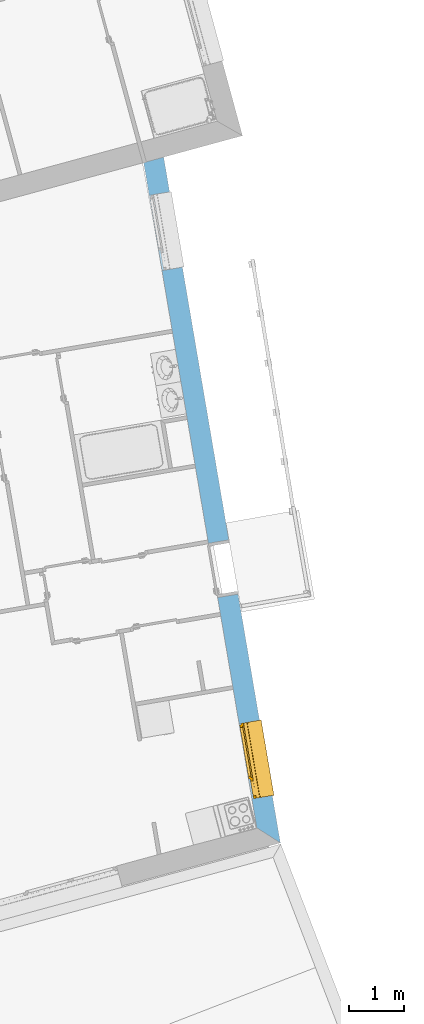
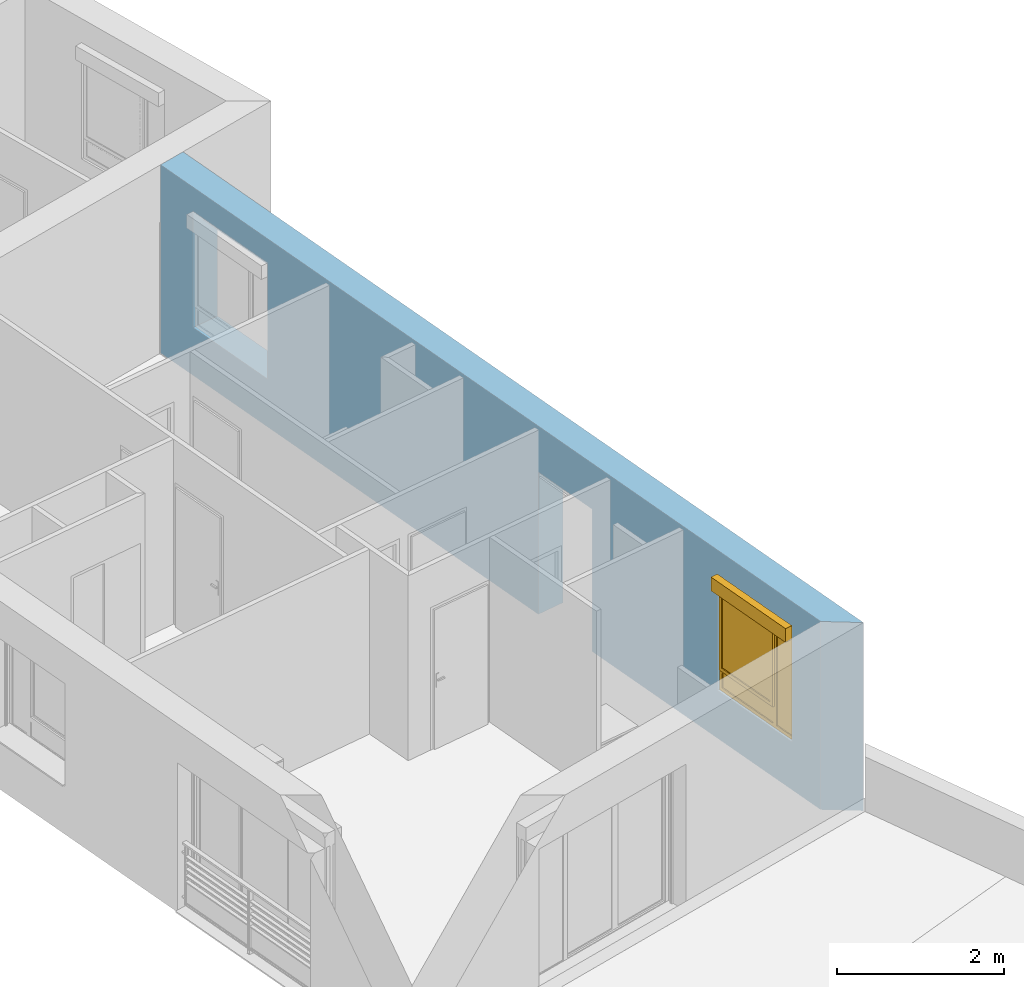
# One storey, part 77 of 121: 1 window, 3 openings, plus 1 element that does not belong to this part.
"""IFC2X3 building model written with IfcOpenShell, lengths in metres."""

from ifc_helpers import new_model, entity, si_unit, converted_unit, derived_unit, money_unit, direction, frame, origin_with_axes, origin_2d_with_axis, place, context, subcontext, project, spatial, polyline, rectangle, outline, extrude, open_shell, faceted_brep, surface_model, source, transform, mapped, material, layer, layer_set, layer_usage, type_object, element, fill, save


model = new_model("IFC2X3")

# Units and contexts
model_context = context("Model", 3, precision=1e-05, world=origin_with_axes(), true_north=direction((0.0, 1.0)))
body_context = subcontext(model_context, "Body", "Model", "MODEL_VIEW")
ifc_project = project(units=[si_unit("LENGTHUNIT", "METRE"), si_unit("AREAUNIT", "SQUARE_METRE"), si_unit("VOLUMEUNIT", "CUBIC_METRE"), converted_unit("PLANEANGLEUNIT", "DEGREE", entity("IfcPlaneAngleMeasure", 0.0174532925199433), si_unit("PLANEANGLEUNIT", "RADIAN"), dimensions=[0, 0, 0, 0, 0, 0, 0]), money_unit("CHF"), converted_unit("TIMEUNIT", "Year", entity("IfcTimeMeasure", 31557600.0), si_unit("TIMEUNIT", "SECOND"), dimensions=[0, 0, 1, 0, 0, 0, 0]), si_unit("MASSUNIT", "GRAM", prefix="KILO"), si_unit("THERMODYNAMICTEMPERATUREUNIT", "DEGREE_CELSIUS"), si_unit("LUMINOUSINTENSITYUNIT", "LUMEN"), si_unit("ENERGYUNIT", "JOULE", prefix="MEGA"), derived_unit("THERMALCONDUCTANCEUNIT", [(si_unit("POWERUNIT", "WATT"), 1), (si_unit("LENGTHUNIT", "METRE"), -1), (si_unit("THERMODYNAMICTEMPERATUREUNIT", "KELVIN"), -1)]), derived_unit("SPECIFICHEATCAPACITYUNIT", [(si_unit("ENERGYUNIT", "JOULE"), 1), (si_unit("MASSUNIT", "GRAM", prefix="KILO"), -1), (si_unit("THERMODYNAMICTEMPERATUREUNIT", "KELVIN"), -1)]), derived_unit("MASSDENSITYUNIT", [(si_unit("MASSUNIT", "GRAM", prefix="KILO"), 1), (si_unit("VOLUMEUNIT", "CUBIC_METRE"), -1)])], contexts=[model_context])

# Site, building, storey
site_placement = place(None, origin_with_axes())
site = spatial("IfcSite", under=ifc_project, at=site_placement, Name="Site", CompositionType="ELEMENT")
building_placement = place(site_placement, origin_with_axes())
building = spatial("IfcBuilding", under=site, at=building_placement, Name="Bâtiment", CompositionType="ELEMENT")
storey_placement = place(building_placement, frame((0.0, 0.0, 2.75), z_axis=(0.0, 0.0, 1.0), x_axis=(1.0, 0.0, 0.0)))
storey = spatial("IfcBuildingStorey", under=building, at=storey_placement, Name="Etage 1", CompositionType="ELEMENT", Elevation=2.75)

# Wall, openings, window
ifc_material_1 = material(Name="Parpaing 312445824")
ifc_layer_1 = layer(ifc_material_1, 0.22, ventilated="UNKNOWN")
ifc_material_2 = material(Name="Isolant styromousse 301821074")
ifc_layer_2 = layer(ifc_material_2, 0.16, ventilated="UNKNOWN")
ifc_layer_set = layer_set([ifc_layer_1, ifc_layer_2], Name="isol int 22+16 0836643197")
ifc_layer_usage = layer_usage(ifc_layer_set, "AXIS2", "NEGATIVE", 0.0)
wall_type = type_object("IfcWallType", Name="isol int 22+16 0836643197 380", PredefinedType="NOTDEFINED")
wall_placement = place(storey_placement, frame((9587.267838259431, -1021.018009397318, 57.7), z_axis=(0.0, 0.0, 1.0), x_axis=(0.1677527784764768, -0.9858290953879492, 0.0)))
wall = element("IfcWallStandardCase", 1, at=wall_placement, inside=storey, type_object=wall_type, material=ifc_layer_usage, Name="Mur-113", context=body_context, shape_type="SweptSolid", body=[
    extrude(outline(polyline([(0.03709306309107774, -0.3799999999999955), (12.41463836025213, -0.3799999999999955), (12.75935139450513, 0.0), (9.105178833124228e-10, 0.0), (0.03709306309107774, -0.3799999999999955)])), origin_with_axes(), (0.0, 0.0, 1.0), 2.75),
])
opening_1_placement = place(wall_placement, frame((1.346555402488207, 0.0, 0.7000000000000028), z_axis=(0.0, 0.0, 1.0), x_axis=(1.0, 0.0, 0.0)))
element("IfcOpeningElement", 2, at=opening_1_placement, cuts=wall, Name="Fen-045", context=body_context, shape_type="Brep", body=[
    faceted_brep([(-0.700000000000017, -0.2200000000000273, 1.5), (0.700000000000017, -0.2199999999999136, 1.5), (0.700000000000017, 2.111085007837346, 1.5), (-0.700000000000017, 2.111085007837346, 1.5), (-0.700000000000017, -0.2200000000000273, 1.700000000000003), (0.700000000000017, -0.2199999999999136, 1.700000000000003), (0.700000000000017, -0.2999999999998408, 1.5), (0.700000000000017, -0.2999999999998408, 0.0), (0.700000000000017, 2.111085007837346, 0.0), (-0.700000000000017, 2.111085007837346, 0.0), (-0.6999999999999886, -0.2999999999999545, 1.5), (-0.6999999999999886, -0.2999999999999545, 0.0), (-0.6999999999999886, -0.4799999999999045, 1.5), (-0.6999999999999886, -0.4799999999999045, 1.700000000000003), (0.700000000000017, -0.4799999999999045, 1.700000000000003), (0.700000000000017, -0.4799999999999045, 1.5), (0.700000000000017, -2.491085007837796, 1.5), (0.700000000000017, -2.491085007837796, 0.0), (-0.6999999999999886, -2.491085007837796, 0.0), (-0.6999999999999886, -2.491085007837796, 1.5)], [[[0, 1, 2, 3]], [[1, 0, 4, 5]], [[1, 6, 7, 8, 2]], [[2, 8, 9, 3]], [[10, 0, 3, 9, 11]], [[0, 10, 12, 13, 4]], [[14, 5, 4, 13]], [[6, 1, 5, 14, 15]], [[6, 15, 16, 17, 7]], [[7, 11, 9, 8]], [[12, 10, 11, 18, 19]], [[12, 15, 14, 13]], [[15, 12, 19, 16]], [[19, 18, 17, 16]], [[11, 7, 17, 18]]]),
])
opening_2_placement = place(wall_placement, frame((7.626217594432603, 0.0, 0.0), z_axis=(0.0, 0.0, 1.0), x_axis=(1.0, 0.0, 0.0)))
element("IfcOpeningElement", 3, at=opening_2_placement, cuts=wall, Name="Por-294", context=body_context, shape_type="SweptSolid", body=[
    extrude(rectangle(XDim=1.01000001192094, YDim=2.079999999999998, at=origin_2d_with_axis()), frame((-5.960401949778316e-09, 0.3799999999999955, 1.039999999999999), z_axis=(0.0, -1.0, 0.0), x_axis=(-1.0, 0.0, 0.0)), (0.0, 0.0, 1.0), 0.76),
])
opening_3_placement = place(wall_placement, frame((11.17804092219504, 0.0, 0.7000000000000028), z_axis=(0.0, 0.0, 1.0), x_axis=(1.0, 0.0, 0.0)))
opening_3 = element("IfcOpeningElement", 4, at=opening_3_placement, cuts=wall, Name="Fen-045", context=body_context, shape_type="Brep", body=[
    faceted_brep([(-0.6999999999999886, -0.2200000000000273, 1.5), (0.6999999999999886, -0.2200000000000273, 1.5), (0.6999999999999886, 2.111085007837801, 1.5), (-0.6999999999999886, 2.111085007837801, 1.5), (-0.6999999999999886, -0.2200000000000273, 1.700000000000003), (0.6999999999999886, -0.2200000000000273, 1.700000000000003), (0.6999999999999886, -0.2999999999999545, 1.5), (0.6999999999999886, -0.2999999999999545, 0.0), (0.6999999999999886, 2.111085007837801, 0.0), (-0.6999999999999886, 2.111085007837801, 0.0), (-0.6999999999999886, -0.2999999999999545, 1.5), (-0.6999999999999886, -0.2999999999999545, 0.0), (-0.6999999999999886, -0.4799999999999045, 1.5), (-0.6999999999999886, -0.4799999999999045, 1.700000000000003), (0.6999999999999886, -0.4800000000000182, 1.700000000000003), (0.6999999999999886, -0.4800000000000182, 1.5), (0.700000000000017, -2.491085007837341, 1.5), (0.700000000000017, -2.491085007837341, 0.0), (-0.700000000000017, -2.491085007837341, 0.0), (-0.700000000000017, -2.491085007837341, 1.5)], [[[0, 1, 2, 3]], [[1, 0, 4, 5]], [[1, 6, 7, 8, 2]], [[2, 8, 9, 3]], [[10, 0, 3, 9, 11]], [[0, 10, 12, 13, 4]], [[14, 5, 4, 13]], [[6, 1, 5, 14, 15]], [[6, 15, 16, 17, 7]], [[7, 11, 9, 8]], [[12, 10, 11, 18, 19]], [[12, 15, 14, 13]], [[15, 12, 19, 16]], [[19, 18, 17, 16]], [[11, 7, 17, 18]]]),
])
window_style = type_object("IfcWindowStyle", Name="Fenêtre variable 27", ConstructionType="NOTDEFINED", OperationType="TRIPLE_PANEL_LEFT", ParameterTakesPrecedence=False, Sizeable=False)
shared_shape = source(origin_with_axes(), body_context, "Body", "SurfaceModel", [
    surface_model("IfcShellBasedSurfaceModel", [(0.7, -0.05100000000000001, 0.05), (-0.7, -0.05100000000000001, 0.05000000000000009), (-0.7, -0.05100000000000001, 0.04000000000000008), (0.7, -0.05100000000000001, 0.04), (-0.7, -0.3799999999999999, 0.02900000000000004), (0.7, -0.3799999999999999, 0.02899999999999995), (-0.7, -0.3799999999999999, 0.00900000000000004), (0.7, -0.3799999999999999, 0.008999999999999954), (-0.7, -0.3699999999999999, 0.01900000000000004), (0.7, -0.3699999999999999, 0.01899999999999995)], [open_shell([[[0, 1, 2, 3]], [[3, 2, 4, 5]], [[5, 4, 6, 7]], [[7, 6, 8, 9]]])]),
    faceted_brep([(0.7, -0.13, 1.7), (0.7, 0.13, 1.7), (0.697, 0.13, 1.7), (0.697, -0.13, 1.7), (0.7, -0.13, 1.5), (0.7, 0.13, 1.5), (0.697, 0.13, 1.5), (0.697, -0.13, 1.5)], [[[0, 1, 2, 3]], [[0, 4, 5, 1]], [[1, 5, 6, 2]], [[3, 2, 6, 7]], [[4, 0, 3, 7]], [[5, 4, 7, 6]]]),
    faceted_brep([(-0.6970000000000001, -0.1299999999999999, 1.7), (-0.6970000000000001, 0.1300000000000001, 1.7), (-0.7000000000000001, 0.1300000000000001, 1.7), (-0.7000000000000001, -0.1299999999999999, 1.7), (-0.6970000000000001, -0.1299999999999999, 1.5), (-0.6970000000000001, 0.1300000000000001, 1.5), (-0.7000000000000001, 0.1300000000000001, 1.5), (-0.7000000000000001, -0.1299999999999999, 1.5)], [[[0, 1, 2, 3]], [[0, 4, 5, 1]], [[1, 5, 6, 2]], [[3, 2, 6, 7]], [[4, 0, 3, 7]], [[5, 4, 7, 6]]]),
    faceted_brep([(0.697, -0.13, 1.5), (0.697, -0.13, 1.7), (-0.697, -0.1299999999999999, 1.7), (-0.697, -0.1299999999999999, 1.5), (0.697, -0.127, 1.5), (0.697, -0.127, 1.697), (0.697, 0.127, 1.697), (0.697, 0.127, 1.503), (0.697, -0.108, 1.503), (0.697, -0.108, 1.5), (0.697, 0.13, 1.5), (0.697, 0.13, 1.7), (-0.697, 0.1300000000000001, 1.7), (-0.697, 0.1300000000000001, 1.5), (-0.697, -0.1079999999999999, 1.5), (-0.697, -0.1079999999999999, 1.503), (-0.697, 0.1270000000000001, 1.503), (-0.697, 0.1270000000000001, 1.697), (-0.697, -0.1269999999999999, 1.697), (-0.697, -0.1269999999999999, 1.5)], [[[0, 1, 2, 3]], [[0, 4, 5, 6, 7, 8, 9, 10, 11, 1]], [[1, 11, 12, 2]], [[3, 2, 12, 13, 14, 15, 16, 17, 18, 19]], [[4, 0, 3, 19]], [[5, 4, 19, 18]], [[6, 5, 18, 17]], [[7, 6, 17, 16]], [[8, 7, 16, 15]], [[9, 8, 15, 14]], [[10, 9, 14, 13]], [[11, 10, 13, 12]]]),
    faceted_brep([(0.694, -0.08075423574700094, 1.585760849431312), (0.694, -0.07705479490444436, 1.571954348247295), (0.694, -0.07101408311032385, 1.559), (0.694, -0.06281564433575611, 1.547291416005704), (0.694, -0.05270858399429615, 1.537184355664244), (0.694, -0.04099999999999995, 1.528985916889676), (0.694, -0.02804565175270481, 1.522945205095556), (0.694, -0.01423915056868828, 1.519245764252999), (0.694, 0.0, 1.518), (0.694, 0.01423915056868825, 1.519245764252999), (0.694, 0.02804565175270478, 1.522945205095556), (0.694, 0.04099999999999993, 1.528985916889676), (0.694, 0.05270858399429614, 1.537184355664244), (0.694, 0.06281564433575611, 1.547291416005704), (0.694, 0.07101408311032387, 1.559), (0.694, 0.07705479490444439, 1.571954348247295), (0.694, 0.08075423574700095, 1.585760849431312), (0.694, 0.0819999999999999, 1.6), (0.694, 0.08075423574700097, 1.614239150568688), (0.694, 0.0770547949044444, 1.628045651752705), (0.694, 0.07101408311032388, 1.641), (0.694, 0.06281564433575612, 1.652708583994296), (0.694, 0.05270858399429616, 1.662815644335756), (0.694, 0.04099999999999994, 1.671014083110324), (0.694, 0.02804565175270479, 1.677054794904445), (0.694, 0.01423915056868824, 1.680754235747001), (0.694, 0.0, 1.682), (0.694, -0.01423915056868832, 1.680754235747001), (0.694, -0.02804565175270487, 1.677054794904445), (0.694, -0.04100000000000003, 1.671014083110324), (0.694, -0.05270858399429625, 1.662815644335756), (0.694, -0.06281564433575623, 1.652708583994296), (0.694, -0.07101408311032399, 1.641), (0.694, -0.07705479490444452, 1.628045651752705), (0.694, -0.0807542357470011, 1.614239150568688), (0.694, -0.08200000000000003, 1.6), (-0.694, -0.08075423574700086, 1.585760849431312), (-0.694, -0.07705479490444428, 1.571954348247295), (-0.694, -0.07101408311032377, 1.559), (-0.694, -0.06281564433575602, 1.547291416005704), (-0.694, -0.05270858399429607, 1.537184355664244), (-0.694, -0.04099999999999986, 1.528985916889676), (-0.694, -0.02804565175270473, 1.522945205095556), (-0.694, -0.0142391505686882, 1.519245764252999), (-0.694, 0.0, 1.518), (-0.694, 0.01423915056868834, 1.519245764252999), (-0.694, 0.02804565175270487, 1.522945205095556), (-0.694, 0.04100000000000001, 1.528985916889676), (-0.694, 0.05270858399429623, 1.537184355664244), (-0.694, 0.06281564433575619, 1.547291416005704), (-0.694, 0.07101408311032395, 1.559), (-0.694, 0.07705479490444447, 1.571954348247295), (-0.694, 0.08075423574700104, 1.585760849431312), (-0.694, 0.08199999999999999, 1.6), (-0.694, 0.08075423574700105, 1.614239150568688), (-0.694, 0.07705479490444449, 1.628045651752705), (-0.694, 0.07101408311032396, 1.641), (-0.694, 0.0628156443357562, 1.652708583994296), (-0.694, 0.05270858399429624, 1.662815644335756), (-0.694, 0.04100000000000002, 1.671014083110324), (-0.694, 0.02804565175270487, 1.677054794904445), (-0.694, 0.01423915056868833, 1.680754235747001), (-0.694, 0.0, 1.682), (-0.694, -0.01423915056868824, 1.680754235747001), (-0.694, -0.02804565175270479, 1.677054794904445), (-0.694, -0.04099999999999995, 1.671014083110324), (-0.694, -0.05270858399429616, 1.662815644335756), (-0.694, -0.06281564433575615, 1.652708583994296), (-0.694, -0.07101408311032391, 1.641), (-0.694, -0.07705479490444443, 1.628045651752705), (-0.694, -0.08075423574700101, 1.614239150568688), (-0.694, -0.08199999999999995, 1.6)], [[[0, 1, 2, 3, 4, 5, 6, 7, 8, 9, 10, 11, 12, 13, 14, 15, 16, 17, 18, 19, 20, 21, 22, 23, 24, 25, 26, 27, 28, 29, 30, 31, 32, 33, 34, 35]], [[1, 0, 36, 37]], [[2, 1, 37, 38]], [[3, 2, 38, 39]], [[4, 3, 39, 40]], [[5, 4, 40, 41]], [[6, 5, 41, 42]], [[7, 6, 42, 43]], [[8, 7, 43, 44]], [[9, 8, 44, 45]], [[10, 9, 45, 46]], [[11, 10, 46, 47]], [[12, 11, 47, 48]], [[13, 12, 48, 49]], [[14, 13, 49, 50]], [[15, 14, 50, 51]], [[16, 15, 51, 52]], [[17, 16, 52, 53]], [[18, 17, 53, 54]], [[19, 18, 54, 55]], [[20, 19, 55, 56]], [[21, 20, 56, 57]], [[22, 21, 57, 58]], [[23, 22, 58, 59]], [[24, 23, 59, 60]], [[25, 24, 60, 61]], [[26, 25, 61, 62]], [[27, 26, 62, 63]], [[28, 27, 63, 64]], [[29, 28, 64, 65]], [[30, 29, 65, 66]], [[31, 30, 66, 67]], [[32, 31, 67, 68]], [[33, 32, 68, 69]], [[34, 33, 69, 70]], [[35, 34, 70, 71]], [[0, 35, 71, 36]], [[36, 71, 70, 69, 68, 67, 66, 65, 64, 63, 62, 61, 60, 59, 58, 57, 56, 55, 54, 53, 52, 51, 50, 49, 48, 47, 46, 45, 44, 43, 42, 41, 40, 39, 38, 37]]]),
    faceted_brep([(-0.7, -0.105, 0.03), (-0.7, -0.13, 0.03), (-0.7, -0.1299999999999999, 1.5), (-0.7, -0.1049999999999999, 1.5), (-0.6749999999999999, -0.105, 0.03), (-0.6749999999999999, -0.108, 0.03), (-0.697, -0.108, 0.03), (-0.697, -0.127, 0.03), (-0.6749999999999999, -0.127, 0.03), (-0.6749999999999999, -0.13, 0.03), (-0.6749999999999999, -0.1299999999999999, 1.5), (-0.6749999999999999, -0.1269999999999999, 1.5), (-0.697, -0.1269999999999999, 1.5), (-0.697, -0.1079999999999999, 1.5), (-0.6749999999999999, -0.1079999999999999, 1.5), (-0.6749999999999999, -0.1049999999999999, 1.5)], [[[0, 1, 2, 3]], [[0, 4, 5, 6, 7, 8, 9, 1]], [[1, 9, 10, 2]], [[3, 2, 10, 11, 12, 13, 14, 15]], [[4, 0, 3, 15]], [[5, 4, 15, 14]], [[6, 5, 14, 13]], [[7, 6, 13, 12]], [[8, 7, 12, 11]], [[9, 8, 11, 10]]]),
    faceted_brep([(0.7, -0.105, 0.03), (0.7, -0.1049999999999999, 1.5), (0.7, -0.1299999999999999, 1.5), (0.7, -0.13, 0.03), (0.6749999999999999, -0.105, 0.03), (0.6749999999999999, -0.1049999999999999, 1.5), (0.6749999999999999, -0.1079999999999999, 1.5), (0.697, -0.1079999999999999, 1.5), (0.697, -0.1269999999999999, 1.5), (0.6749999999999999, -0.1269999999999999, 1.5), (0.6749999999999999, -0.1299999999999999, 1.5), (0.6749999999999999, -0.13, 0.03), (0.6749999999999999, -0.127, 0.03), (0.697, -0.127, 0.03), (0.697, -0.108, 0.03), (0.6749999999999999, -0.108, 0.03)], [[[0, 1, 2, 3]], [[4, 5, 1, 0]], [[1, 5, 6, 7, 8, 9, 10, 2]], [[3, 2, 10, 11]], [[0, 3, 11, 12, 13, 14, 15, 4]], [[15, 6, 5, 4]], [[14, 7, 6, 15]], [[13, 8, 7, 14]], [[12, 9, 8, 13]], [[11, 10, 9, 12]]]),
    surface_model("IfcShellBasedSurfaceModel", [(0.697, -0.115, 1.6), (-0.697, -0.1149999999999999, 1.6), (-0.697, -0.12, 1.6), (0.697, -0.12, 1.6), (0.697, -0.115, 1.6), (0.697, -0.12, 1.6), (-0.697, -0.1199999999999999, 1.6), (-0.697, -0.1149999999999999, 1.6)], [open_shell([[[0, 1, 2, 3]], [[4, 5, 6, 7]]])]),
    faceted_brep([(0.697, -0.115, 1.6), (0.697, -0.1166666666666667, 1.583333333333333), (-0.697, -0.1166666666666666, 1.583333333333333), (-0.697, -0.1149999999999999, 1.6), (0.697, -0.12, 1.6), (0.697, -0.1216666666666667, 1.583333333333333), (0.697, -0.1216666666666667, 1.566666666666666), (0.697, -0.12, 1.55), (0.697, -0.115, 1.55), (0.697, -0.1166666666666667, 1.566666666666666), (-0.697, -0.1166666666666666, 1.566666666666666), (-0.697, -0.1149999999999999, 1.55), (-0.697, -0.1199999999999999, 1.55), (-0.697, -0.1216666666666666, 1.566666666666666), (-0.697, -0.1216666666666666, 1.583333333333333), (-0.697, -0.1199999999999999, 1.6)], [[[0, 1, 2, 3]], [[0, 4, 5, 6, 7, 8, 9, 1]], [[1, 9, 10, 2]], [[3, 2, 10, 11, 12, 13, 14, 15]], [[4, 0, 3, 15]], [[5, 4, 15, 14]], [[6, 5, 14, 13]], [[7, 6, 13, 12]], [[8, 7, 12, 11]], [[9, 8, 11, 10]]]),
    faceted_brep([(0.697, -0.115, 1.55), (0.697, -0.1166666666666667, 1.533333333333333), (-0.697, -0.1166666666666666, 1.533333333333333), (-0.697, -0.1149999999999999, 1.55), (0.697, -0.12, 1.55), (0.697, -0.1216666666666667, 1.533333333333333), (0.697, -0.1216666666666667, 1.516666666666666), (0.697, -0.12, 1.5), (0.697, -0.115, 1.5), (0.697, -0.1166666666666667, 1.516666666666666), (-0.697, -0.1166666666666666, 1.516666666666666), (-0.697, -0.1149999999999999, 1.5), (-0.697, -0.1199999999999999, 1.5), (-0.697, -0.1216666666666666, 1.516666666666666), (-0.697, -0.1216666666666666, 1.533333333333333), (-0.697, -0.1199999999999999, 1.55)], [[[0, 1, 2, 3]], [[0, 4, 5, 6, 7, 8, 9, 1]], [[1, 9, 10, 2]], [[3, 2, 10, 11, 12, 13, 14, 15]], [[4, 0, 3, 15]], [[5, 4, 15, 14]], [[6, 5, 14, 13]], [[7, 6, 13, 12]], [[8, 7, 12, 11]], [[9, 8, 11, 10]]]),
    faceted_brep([(0.6749999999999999, 0.0, 1.45), (0.6749999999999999, -0.02500000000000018, 1.45), (0.6499999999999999, -0.02500000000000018, 1.45), (0.6499999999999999, -0.05000000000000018, 1.45), (0.7, -0.05000000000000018, 1.45), (0.7, 0.0, 1.45), (0.6749999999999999, 0.0, 0.3099999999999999), (0.6749999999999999, -0.02500000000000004, 0.3099999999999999), (0.6499999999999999, -0.02500000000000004, 0.335), (0.6499999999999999, -0.02500000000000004, 0.3099999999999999), (0.6499999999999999, -0.05000000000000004, 0.335), (0.6499999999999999, -0.05000000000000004, 0.265), (0.6499999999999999, -0.05000000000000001, 0.05000000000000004), (0.7, -0.05000000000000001, 0.05000000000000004), (0.7, 0.0, 0.05000000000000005), (0.6499999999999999, 0.0, 0.05000000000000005), (0.6499999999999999, 0.0, 0.265), (0.6499999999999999, 0.0, 0.3099999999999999)], [[[0, 1, 2, 3, 4, 5]], [[1, 0, 6, 7]], [[8, 2, 1, 7, 9]], [[2, 8, 10, 3]], [[10, 11, 12, 13, 4, 3]], [[5, 4, 13, 14]], [[6, 0, 5, 14, 15, 16, 17]], [[6, 17, 9, 7]], [[9, 17, 16, 11, 10, 8]], [[15, 12, 11, 16]], [[14, 13, 12, 15]]]),
    faceted_brep([(-0.3068894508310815, -0.02500000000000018, 1.45), (-0.3318894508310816, -0.02500000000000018, 1.45), (-0.3318894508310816, 0.0, 1.45), (-0.3768894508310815, 0.0, 1.45), (-0.3768894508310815, -0.05000000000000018, 1.45), (-0.3068894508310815, -0.05000000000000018, 1.45), (-0.3068894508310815, -0.02500000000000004, 0.335), (-0.3068894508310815, -0.02500000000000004, 0.3099999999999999), (-0.3318894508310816, -0.02500000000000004, 0.3099999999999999), (-0.3318894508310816, 0.0, 0.3099999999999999), (-0.3068894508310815, 0.0, 0.3099999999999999), (-0.3068894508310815, 0.0, 0.265), (-0.3068894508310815, 0.0, 0.05000000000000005), (-0.3768894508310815, 0.0, 0.05000000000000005), (-0.3768894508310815, -0.05000000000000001, 0.05000000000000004), (-0.3068894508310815, -0.05000000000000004, 0.265), (-0.3068894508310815, -0.05000000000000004, 0.335), (-0.3068894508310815, -0.05000000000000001, 0.05000000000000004)], [[[0, 1, 2, 3, 4, 5]], [[1, 0, 6, 7, 8]], [[9, 2, 1, 8]], [[9, 10, 11, 12, 13, 3, 2]], [[13, 14, 4, 3]], [[15, 16, 5, 4, 14, 17]], [[6, 0, 5, 16]], [[7, 6, 16, 15, 11, 10]], [[10, 9, 8, 7]], [[11, 15, 17, 12]], [[12, 17, 14, 13]]]),
    faceted_brep([(0.6499999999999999, -0.02500000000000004, 0.335), (-0.3068894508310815, -0.02500000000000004, 0.335), (-0.3068894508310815, -0.05000000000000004, 0.335), (0.6499999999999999, -0.05000000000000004, 0.335), (-0.3068894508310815, -0.02500000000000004, 0.3099999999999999), (0.6499999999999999, -0.02500000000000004, 0.3099999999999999), (-0.3068894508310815, 0.0, 0.3099999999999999), (-0.3068894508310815, 0.0, 0.265), (-0.3068894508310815, -0.05000000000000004, 0.265), (0.6499999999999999, -0.05000000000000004, 0.265), (0.6499999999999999, 0.0, 0.265), (0.6499999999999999, 0.0, 0.3099999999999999)], [[[0, 1, 2, 3]], [[4, 1, 0, 5]], [[4, 6, 7, 8, 2, 1]], [[2, 8, 9, 3]], [[5, 0, 3, 9, 10, 11]], [[11, 6, 4, 5]], [[6, 11, 10, 7]], [[10, 9, 8, 7]]]),
    faceted_brep([(0.6749999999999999, 0.0, 1.45), (0.6749999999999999, 0.0, 1.475), (-0.3318894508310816, 0.0, 1.475), (-0.3318894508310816, 0.0, 1.45), (-0.3768894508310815, 0.0, 1.45), (-0.6499999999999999, 0.0, 1.45), (-0.7, 0.0, 1.45), (-0.7, 0.0, 1.5), (0.7, 0.0, 1.5), (0.7, 0.0, 1.45), (0.6749999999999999, -0.02500000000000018, 1.45), (0.6749999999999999, -0.02500000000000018, 1.475), (-0.3318894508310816, -0.02500000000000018, 1.475), (-0.3318894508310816, -0.02500000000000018, 1.45), (-0.3068894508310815, -0.02500000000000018, 1.45), (-0.3068894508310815, -0.05000000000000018, 1.45), (-0.3768894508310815, -0.05000000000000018, 1.45), (-0.6499999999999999, -0.05000000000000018, 1.45), (-0.7, -0.05000000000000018, 1.45), (-0.7, -0.05000000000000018, 1.5), (0.7, -0.05000000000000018, 1.5), (0.7, -0.05000000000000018, 1.45), (0.6499999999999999, -0.05000000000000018, 1.45), (0.6499999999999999, -0.02500000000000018, 1.45)], [[[0, 1, 2, 3, 4, 5, 6, 7, 8, 9]], [[1, 0, 10, 11]], [[2, 1, 11, 12]], [[3, 2, 12, 13]], [[13, 14, 15, 16, 4, 3]], [[4, 16, 17, 5]], [[5, 17, 18, 6]], [[6, 18, 19, 7]], [[7, 19, 20, 8]], [[8, 20, 21, 9]], [[10, 0, 9, 21, 22, 23]], [[14, 13, 12, 11, 10, 23]], [[14, 23, 22, 15]], [[16, 15, 22, 21, 20, 19, 18, 17]]]),
    faceted_brep([(-0.6499999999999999, -0.05000000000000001, 0.05), (-0.7, -0.05000000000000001, 0.05), (-0.7, 0.0, 0.05000000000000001), (-0.6499999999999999, 0.0, 0.05000000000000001), (-0.6499999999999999, -0.05000000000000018, 1.45), (-0.7, -0.05000000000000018, 1.45), (-0.7, 0.0, 1.45), (-0.6499999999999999, 0.0, 1.45)], [[[0, 1, 2, 3]], [[0, 4, 5, 1]], [[1, 5, 6, 2]], [[3, 2, 6, 7]], [[4, 0, 3, 7]], [[5, 4, 7, 6]]]),
    faceted_brep([(0.6499999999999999, -0.05000000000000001, 0.05), (0.7, -0.05000000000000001, 0.05), (0.7, 0.0, 0.05000000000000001), (0.6499999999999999, 0.0, 0.05000000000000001), (-0.3068894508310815, -0.05000000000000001, 0.05), (-0.3768894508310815, -0.05000000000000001, 0.05), (-0.6499999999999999, -0.05000000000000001, 0.05), (-0.7, -0.05000000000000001, 0.05), (-0.7, -0.05, 0.0), (0.7, -0.05, 0.0), (0.7, 0.0, 0.0), (-0.7, 0.0, 0.0), (-0.7, 0.0, 0.05000000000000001), (-0.6499999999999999, 0.0, 0.05000000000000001), (-0.3768894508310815, 0.0, 0.05000000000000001), (-0.3068894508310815, 0.0, 0.05000000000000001)], [[[0, 1, 2, 3]], [[0, 4, 5, 6, 7, 8, 9, 1]], [[1, 9, 10, 2]], [[3, 2, 10, 11, 12, 13, 14, 15]], [[4, 0, 3, 15]], [[5, 4, 15, 14]], [[6, 5, 14, 13]], [[7, 6, 13, 12]], [[8, 7, 12, 11]], [[9, 8, 11, 10]]]),
    faceted_brep([(0.625, -0.02500000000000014, 1.425), (0.6749999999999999, -0.02500000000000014, 1.425), (0.6749999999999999, 0.02499999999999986, 1.425), (0.625, 0.02499999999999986, 1.425), (0.625, -0.02500000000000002, 0.3599999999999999), (0.6749999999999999, -0.02500000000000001, 0.3599999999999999), (0.6749999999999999, 0.02499999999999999, 0.3599999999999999), (0.625, 0.02499999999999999, 0.3599999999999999)], [[[0, 1, 2, 3]], [[0, 4, 5, 1]], [[1, 5, 6, 2]], [[3, 2, 6, 7]], [[4, 0, 3, 7]], [[5, 4, 7, 6]]]),
    faceted_brep([(-0.2818894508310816, -0.02500000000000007, 0.3599999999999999), (-0.3318894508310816, -0.02500000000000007, 0.3599999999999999), (-0.3318894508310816, 0.02499999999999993, 0.3599999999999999), (-0.2818894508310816, 0.02499999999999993, 0.3599999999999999), (-0.2818894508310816, -0.0250000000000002, 1.425), (-0.3318894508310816, -0.0250000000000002, 1.425), (-0.3318894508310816, 0.0249999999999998, 1.425), (-0.2818894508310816, 0.0249999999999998, 1.425)], [[[0, 1, 2, 3]], [[0, 4, 5, 1]], [[1, 5, 6, 2]], [[3, 2, 6, 7]], [[4, 0, 3, 7]], [[5, 4, 7, 6]]]),
    faceted_brep([(-0.3318894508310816, -0.02500000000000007, 0.3099999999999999), (-0.3318894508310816, -0.02500000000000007, 0.3599999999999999), (-0.3318894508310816, 0.02499999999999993, 0.3599999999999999), (-0.3318894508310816, 0.02499999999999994, 0.3099999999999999), (0.6749999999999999, -0.025, 0.3099999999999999), (0.6749999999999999, -0.02500000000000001, 0.3599999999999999), (0.625, -0.02500000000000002, 0.3599999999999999), (-0.2818894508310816, -0.02500000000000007, 0.3599999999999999), (-0.2818894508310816, 0.02499999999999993, 0.3599999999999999), (0.625, 0.02499999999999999, 0.3599999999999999), (0.6749999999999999, 0.02499999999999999, 0.3599999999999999), (0.6749999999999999, 0.02499999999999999, 0.3099999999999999)], [[[0, 1, 2, 3]], [[0, 4, 5, 6, 7, 1]], [[1, 7, 8, 2]], [[3, 2, 8, 9, 10, 11]], [[4, 0, 3, 11]], [[5, 4, 11, 10]], [[6, 5, 10, 9]], [[7, 6, 9, 8]]]),
    faceted_brep([(0.6749999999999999, -0.02500000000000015, 1.475), (0.6749999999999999, -0.02500000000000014, 1.425), (0.6749999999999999, 0.02499999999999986, 1.425), (0.6749999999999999, 0.02499999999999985, 1.475), (-0.3318894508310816, -0.02500000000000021, 1.475), (-0.3318894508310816, -0.0250000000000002, 1.425), (-0.2818894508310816, -0.0250000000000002, 1.425), (0.625, -0.02500000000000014, 1.425), (0.625, 0.02499999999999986, 1.425), (-0.2818894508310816, 0.0249999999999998, 1.425), (-0.3318894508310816, 0.0249999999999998, 1.425), (-0.3318894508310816, 0.02499999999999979, 1.475)], [[[0, 1, 2, 3]], [[0, 4, 5, 6, 7, 1]], [[1, 7, 8, 2]], [[3, 2, 8, 9, 10, 11]], [[4, 0, 3, 11]], [[5, 4, 11, 10]], [[6, 5, 10, 9]], [[7, 6, 9, 8]]]),
    surface_model("IfcShellBasedSurfaceModel", [(0.625, -0.01000000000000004, 0.3599999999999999), (0.625, -0.01000000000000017, 1.425), (-0.2818894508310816, -0.01000000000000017, 1.425), (-0.2818894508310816, -0.01000000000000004, 0.3599999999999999)], [open_shell([[[0, 1, 2, 3]]])]),
    surface_model("IfcShellBasedSurfaceModel", [(0.625, 0.009999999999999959, 0.3599999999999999), (-0.2818894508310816, 0.009999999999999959, 0.3599999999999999), (-0.2818894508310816, 0.00999999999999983, 1.425), (0.625, 0.00999999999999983, 1.425)], [open_shell([[[0, 1, 2, 3]]])]),
    surface_model("IfcShellBasedSurfaceModel", [(-0.3768894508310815, -0.035, 0.05), (-0.3768894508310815, -0.03500000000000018, 1.45), (-0.65, -0.03500000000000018, 1.45), (-0.65, -0.035, 0.05)], [open_shell([[[0, 1, 2, 3]]])]),
    surface_model("IfcShellBasedSurfaceModel", [(-0.3768894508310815, -0.015, 0.05), (-0.65, -0.015, 0.05), (-0.65, -0.01500000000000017, 1.45), (-0.3768894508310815, -0.01500000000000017, 1.45)], [open_shell([[[0, 1, 2, 3]]])]),
    surface_model("IfcShellBasedSurfaceModel", [(0.6499999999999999, -0.035, 0.05), (0.6499999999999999, -0.03500000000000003, 0.265), (-0.3068894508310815, -0.03500000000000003, 0.265), (-0.3068894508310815, -0.035, 0.05)], [open_shell([[[0, 1, 2, 3]]])]),
    surface_model("IfcShellBasedSurfaceModel", [(0.6499999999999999, -0.015, 0.05), (-0.3068894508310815, -0.015, 0.05), (-0.3068894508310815, -0.01500000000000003, 0.265), (0.6499999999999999, -0.01500000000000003, 0.265)], [open_shell([[[0, 1, 2, 3]]])]),
])
window_placement = place(opening_3_placement, frame((0.6999999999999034, 0.0, 0.0), z_axis=(0.0, 0.0, 1.0), x_axis=(-1.0, 0.0, 0.0)))
window = element("IfcWindow", 5, at=window_placement, inside=storey, type_object=window_style, Name="Fen-045", OverallHeight=1.5, OverallWidth=1.4, context=body_context, shape_type="MappedRepresentation", body=[
    mapped(shared_shape, transform((0.700000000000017, 0.3499999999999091, 0.0))),
])
fill(opening_3, window)

save(model, "model.ifc")
